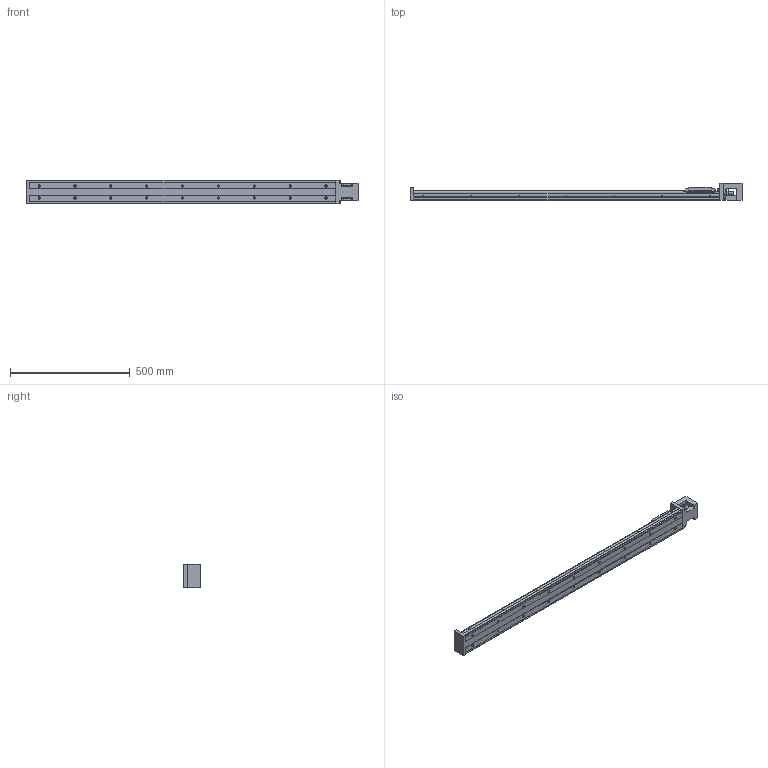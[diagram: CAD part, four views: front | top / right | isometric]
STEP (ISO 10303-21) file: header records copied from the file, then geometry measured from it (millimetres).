
FILE_DESCRIPTION( ( '' ), '1' );
FILE_NAME( '//partserver001.servicenet/client_exchange/iodir/jobs/output/wkb20113471_no3/STEP/kk10020p_1280a1_f0_2_03.stp', '2009-11-12T12:43:41', ( '' ), ( '' ), ' ', ' ', ' ' );
FILE_SCHEMA( ( 'CONFIG_CONTROL_DESIGN' ) );
Length unit declared in the file: millimetre
Products named in the file (3): 1; 2; 3
Bounding box: 1389 x 72 x 100 mm (x, y, z)
Volume: 3369175.1 mm3; surface area: 591926.6 mm2
Topology: 3 solids, 3 shells, 532 faces, 1358 edges, 846 vertices
Faces by surface type: cylinder 207, plane 201, cone 116, torus 8
Entity records: 16044 total; most frequent: DIRECTION 2894, CARTESIAN_POINT 2751, ORIENTED_EDGE 2604, EDGE_CURVE 1302, AXIS2_PLACEMENT_3D 1061, VERTEX_POINT 846, LINE 772, VECTOR 772
